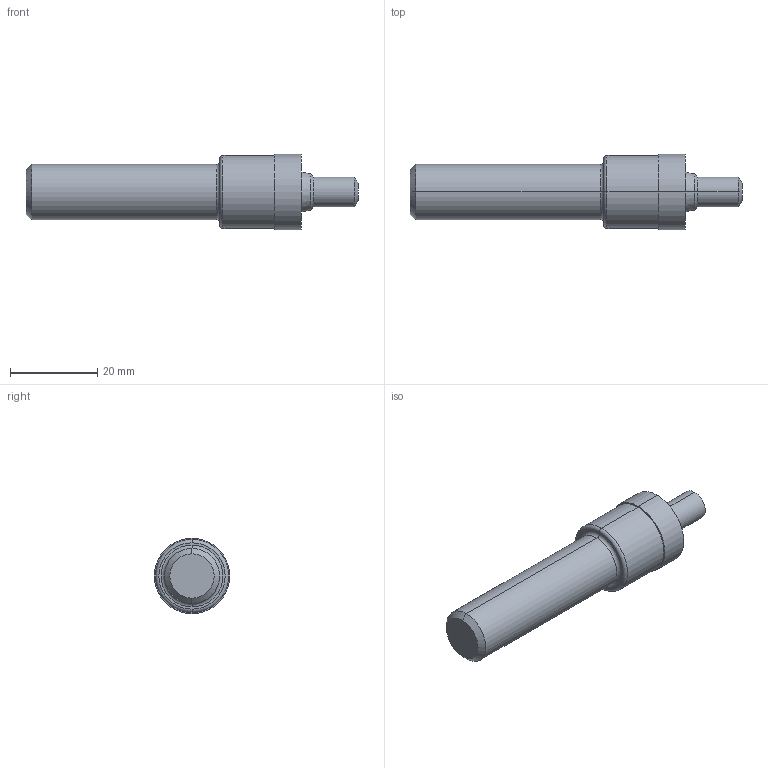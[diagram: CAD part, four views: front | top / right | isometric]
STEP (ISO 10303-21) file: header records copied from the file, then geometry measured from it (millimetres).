
FILE_DESCRIPTION (( 'STEP AP214' ), '1' );
FILE_NAME ('MS16142-2R-SolidModel.STEP', '2018-05-10T19:00:54', ( '' ), ( '' ), 'SwSTEP 2.0', 'SolidWorks 2017', '' );
FILE_SCHEMA (( 'AUTOMOTIVE_DESIGN' ));
Length unit declared in the file: inch
Products named in the file (1): MS16142-2R-SolidModel
Bounding box: 76.2 x 17.32 x 17.32 mm (x, y, z)
Volume: 10353.2 mm3; surface area: 3441 mm2
Topology: 1 solids, 1 shells, 25 faces, 48 edges, 28 vertices
Faces by surface type: cone 8, cylinder 8, plane 5, torus 4
Entity records: 678 total; most frequent: DIRECTION 132, CARTESIAN_POINT 102, ORIENTED_EDGE 96, AXIS2_PLACEMENT_3D 58, EDGE_CURVE 48, CIRCLE 32, VERTEX_POINT 28, EDGE_LOOP 28
